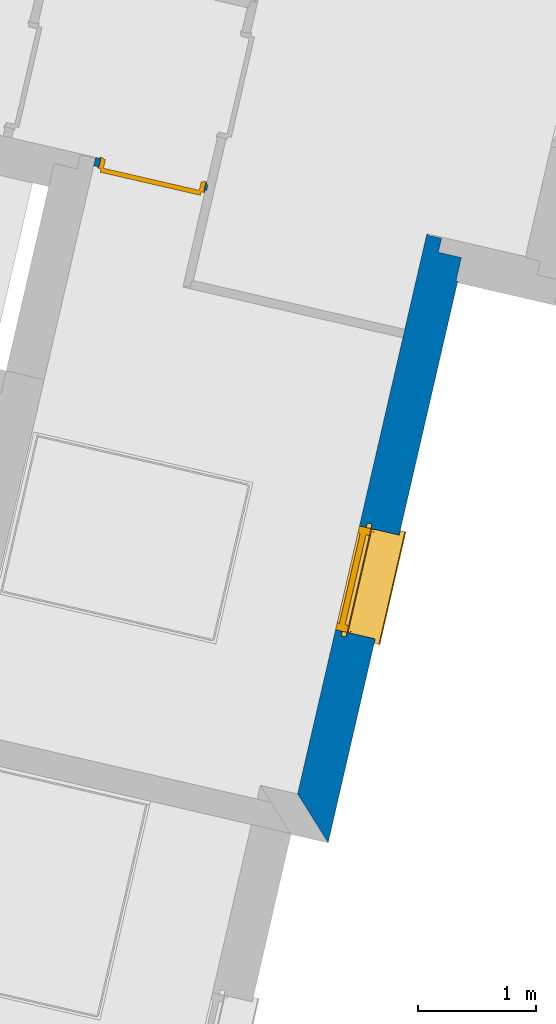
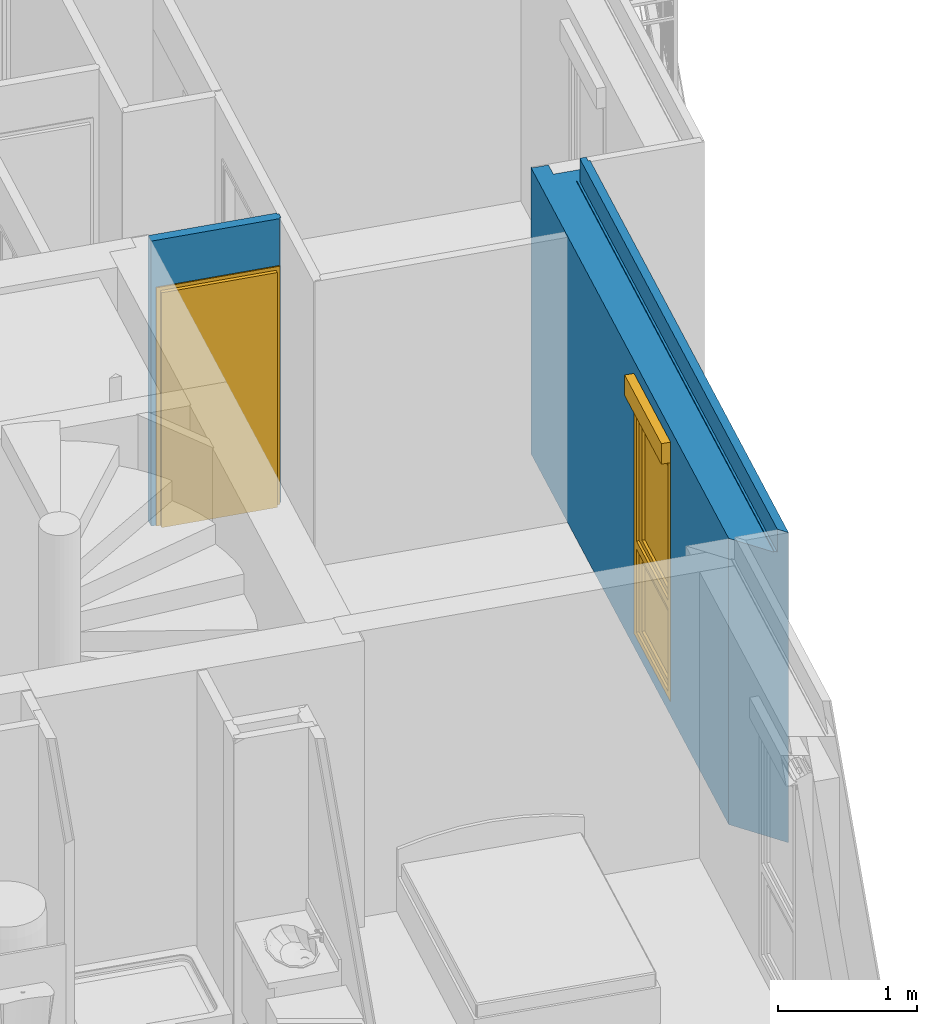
# One storey, part 21 of 91: 2 walls, 1 door, 1 window, 2 openings.
"""IFC2X3 building model written with IfcOpenShell, lengths in metres."""

import ifcopenshell
import ifcopenshell.guid

model = None  # the IFC model being written
_history = None  # IfcOwnerHistory: only IFC2X3 demands one
_inside = {}  # id of a spatial element -> (the spatial element, [elements in it])
_under = {}  # id of a project, library or spatial element -> (it, [spatial elements below it])
_declared = {}  # id of a project -> (the project, [libraries it declares])
_typed = {}  # id of a type object -> (the type object, [elements of that type])
_made_of = {}  # id of a material, layer set ... -> (it, [elements and type objects made of it])


def new_model(schema):
    """Start an empty IFC model of exactly this schema.

    Asked for "IFC4X3", IfcOpenShell would pick the latest addendum, in which some entities
    have other attributes; the version numbers below select the first issue.
    IFC2X3 requires an IfcOwnerHistory on every rooted entity: one is made here for all.
    """
    global model, _history
    if schema == "IFC4X3":
        model = ifcopenshell.file(schema_version=(4, 3, 0, 0))
    else:
        model = ifcopenshell.file(schema=schema)
    _inside.clear()
    _under.clear()
    _declared.clear()
    _typed.clear()
    _made_of.clear()
    _history = None
    if model.schema == "IFC2X3":
        org = make("IfcOrganization", Name="unknown")
        user = make(
            "IfcPersonAndOrganization",
            ThePerson=make("IfcPerson", FamilyName="unknown"),
            TheOrganization=org,
        )
        app = make(
            "IfcApplication",
            ApplicationDeveloper=org,
            Version="unknown",
            ApplicationFullName="unknown",
            ApplicationIdentifier="unknown",
        )
        _history = make(
            "IfcOwnerHistory",
            OwningUser=user,
            OwningApplication=app,
            ChangeAction="ADDED",
            CreationDate=0,
        )
    return model


def make(cls, **values):
    """One entity of the class cls with the attributes given. An attribute that is None is left unset."""
    return model.create_entity(
        cls, **{name: value for name, value in values.items() if value is not None}
    )


def entity(cls, *values):
    """Any entity or typed value of the class cls, its attributes in the order of the schema. None: left unset."""
    e = model.create_entity(cls)
    for i, value in enumerate(values):
        if value is not None:
            e[i] = value
    return e


def rooted(cls, **values):
    """An entity with a GlobalId (a new one), such as an element, a storey or a relation."""
    return make(cls, GlobalId=ifcopenshell.guid.new(), OwnerHistory=_history, **values)


def si_unit(unit_type, name, prefix=None):
    """IfcSIUnit, for example si_unit("LENGTHUNIT", "METRE", prefix="MILLI")."""
    return make("IfcSIUnit", UnitType=unit_type, Prefix=prefix, Name=name)


def converted_unit(unit_type, name, factor, base, dimensions=None, offset=None):
    """IfcConversionBasedUnit, such as the inch: factor (a typed value) times the base unit."""
    return make(
        "IfcConversionBasedUnit"
        if offset is None
        else "IfcConversionBasedUnitWithOffset",
        ConversionOffset=offset,
        Dimensions=None
        if dimensions is None
        else entity("IfcDimensionalExponents", *dimensions),
        UnitType=unit_type,
        Name=name,
        ConversionFactor=make(
            "IfcMeasureWithUnit", ValueComponent=factor, UnitComponent=base
        ),
    )


def derived_unit(unit_type, elements):
    """IfcDerivedUnit: a product of units, each with its exponent."""
    return make(
        "IfcDerivedUnit",
        Elements=[
            make("IfcDerivedUnitElement", Unit=unit, Exponent=power)
            for unit, power in elements
        ],
        UnitType=unit_type,
    )


def money_unit(currency):
    """IfcMonetaryUnit."""
    return make("IfcMonetaryUnit", Currency=currency)


def assignment(units):
    """IfcUnitAssignment: the units of a project."""
    return None if units is None else make("IfcUnitAssignment", Units=units)


def point(xyz):
    """IfcCartesianPoint."""
    return None if xyz is None else make("IfcCartesianPoint", Coordinates=xyz)


def direction(xyz):
    """IfcDirection."""
    return None if xyz is None else make("IfcDirection", DirectionRatios=xyz)


def frame(location, z_axis=None, x_axis=None):
    """IfcAxis2Placement3D, a coordinate frame: its origin and axes. An axis left out is left unset."""
    return make(
        "IfcAxis2Placement3D",
        Location=point(location),
        Axis=direction(z_axis),
        RefDirection=direction(x_axis),
    )


def origin_with_axes():
    """The frame at (0, 0, 0) with the z axis (0, 0, 1) and the x axis (1, 0, 0) written out."""
    return frame((0.0, 0.0, 0.0), z_axis=(0.0, 0.0, 1.0), x_axis=(1.0, 0.0, 0.0))


def place(relative_to, where):
    """IfcLocalPlacement: puts the frame where relative to a parent placement (None: the world)."""
    return make(
        "IfcLocalPlacement", PlacementRelTo=relative_to, RelativePlacement=where
    )


def context(
    kind, dimensions, precision=None, world=None, true_north=None, identifier=None
):
    """IfcGeometricRepresentationContext, for example the 3D "Model" context."""
    return make(
        "IfcGeometricRepresentationContext",
        ContextIdentifier=identifier,
        ContextType=kind,
        CoordinateSpaceDimension=dimensions,
        Precision=precision,
        WorldCoordinateSystem=world,
        TrueNorth=true_north,
    )


def subcontext(parent, identifier, kind, view, scale=None):
    """IfcGeometricRepresentationSubContext, for example "Body" below "Model"."""
    return make(
        "IfcGeometricRepresentationSubContext",
        ContextIdentifier=identifier,
        ContextType=kind,
        ParentContext=parent,
        TargetScale=scale,
        TargetView=view,
    )


def project(units=None, contexts=None):
    """IfcProject with its units and contexts."""
    return rooted(
        "IfcProject",
        Name="project",
        RepresentationContexts=contexts,
        UnitsInContext=assignment(units),
    )


def spatial(cls, under=None, at=None, **own):
    """A site, building, storey or space (cls), placed at a placement, below another one or the project."""
    s = rooted(cls, ObjectPlacement=at, **own)
    if under is not None:
        _under.setdefault(under.id(), (under, []))[1].append(s)
    return s


def faces_of(points, faces, orient=None, outer=None):
    """IfcFace entities. A face is a list of loops; a loop is a list of indices into points, from 0.

    orient and outer hold one flag for each loop. By default every Orientation is true, the
    first loop of a face is its IfcFaceOuterBound and the others are IfcFaceBound.
    """
    made = []
    for i, loops in enumerate(faces):
        bounds = []
        for j, loop in enumerate(loops):
            is_outer = j == 0 if outer is None else outer[i][j]
            bounds.append(
                make(
                    "IfcFaceOuterBound" if is_outer else "IfcFaceBound",
                    Bound=make("IfcPolyLoop", Polygon=[points[k] for k in loop]),
                    Orientation=True if orient is None else orient[i][j],
                )
            )
        made.append(make("IfcFace", Bounds=bounds))
    return made


def open_shell(faces, orient=None, outer=None):
    """The faces of one IfcOpenShell. surface_model builds it on its shared points."""
    return ("IfcOpenShell", faces, orient, outer)


def faceted_brep(points, faces, orient=None, outer=None, voids=None):
    """IfcFacetedBrep: a solid bounded by flat faces; with voids (closed shells), ...WithVoids."""
    shared = [point(p) for p in points]
    hull = make("IfcClosedShell", CfsFaces=faces_of(shared, faces, orient, outer))
    if voids is None:
        return make("IfcFacetedBrep", Outer=hull)
    return make(
        "IfcFacetedBrepWithVoids",
        Outer=hull,
        Voids=[
            make(cls, CfsFaces=faces_of(shared, fs, o, b)) for cls, fs, o, b in voids
        ],
    )


def surface_model(cls, points, shells):
    """IfcFaceBasedSurfaceModel or IfcShellBasedSurfaceModel (cls): surfaces that need not close."""
    shared = [point(p) for p in points]
    made = [make(c, CfsFaces=faces_of(shared, fs, o, b)) for c, fs, o, b in shells]
    if cls == "IfcFaceBasedSurfaceModel":
        return make(cls, FbsmFaces=made)
    return make(cls, SbsmBoundary=made)


def shape(context_of_items, identifier, shape_type, items):
    """IfcShapeRepresentation: the items that make up one representation, for example the "Body"."""
    return make(
        "IfcShapeRepresentation",
        ContextOfItems=context_of_items,
        RepresentationIdentifier=identifier,
        RepresentationType=shape_type,
        Items=items,
    )


def source(mapping_origin, context_of_items, identifier, shape_type, items):
    """IfcRepresentationMap: a shape defined once, which mapped items show again and again."""
    return make(
        "IfcRepresentationMap",
        MappingOrigin=mapping_origin,
        MappedRepresentation=shape(context_of_items, identifier, shape_type, items),
    )


def transform(
    local_origin,
    x_axis=None,
    y_axis=None,
    z_axis=None,
    scale=None,
    scale2=None,
    scale3=None,
    uniform=True,
):
    """IfcCartesianTransformationOperator3D, or its non-uniform kind. x_axis, y_axis, z_axis: its Axis1, 2, 3."""
    if uniform:
        return make(
            "IfcCartesianTransformationOperator3D",
            Axis1=direction(x_axis),
            Axis2=direction(y_axis),
            LocalOrigin=point(local_origin),
            Scale=scale,
            Axis3=direction(z_axis),
        )
    return make(
        "IfcCartesianTransformationOperator3DnonUniform",
        Axis1=direction(x_axis),
        Axis2=direction(y_axis),
        LocalOrigin=point(local_origin),
        Scale=scale,
        Axis3=direction(z_axis),
        Scale2=scale2,
        Scale3=scale3,
    )


def mapped(mapping_source, mapping_target):
    """IfcMappedItem: shows the shape of a source again, moved by a transform."""
    return make(
        "IfcMappedItem", MappingSource=mapping_source, MappingTarget=mapping_target
    )


def material(Name=None, Category=None):
    """IfcMaterial."""
    return make("IfcMaterial", Name=Name, Category=Category)


def material_list(materials):
    """IfcMaterialList."""
    return make("IfcMaterialList", Materials=materials)


def made_of(thing, what):
    """Note that an element or type object is made of a material, layer set ...; save() writes the relation."""
    if what is not None:
        _made_of.setdefault(what.id(), (what, []))[1].append(thing)
    return thing


def type_object(cls, material=None, **own):
    """A type object (cls), such as IfcWallType, which elements share."""
    return made_of(rooted(cls, **own), material)


def element(
    cls,
    number,
    at=None,
    inside=None,
    cuts=None,
    type_object=None,
    material=None,
    context=None,
    identifier="Body",
    shape_type=None,
    held_by="IfcProductDefinitionShape",
    body=None,
    shapes=None,
    **own,
):
    """One element of the class cls, such as IfcWall. Its Tag is "e" and its number.

    at: its placement. inside: the storey or other place that contains it. cuts: it is an
    opening in that element (IfcRelVoidsElement). A single representation is given by context,
    identifier, shape_type and body (its items); several are given by shapes. held_by: the class
    of the entity that holds the representations. save() writes the other relations.
    """
    e = rooted(cls, Tag="e%d" % number, ObjectPlacement=at, **own)
    if body is not None:
        shapes = [shape(context, identifier, shape_type, body)]
    if shapes is not None:
        e.Representation = make(held_by, Representations=shapes)
    if inside is not None:
        _inside.setdefault(inside.id(), (inside, []))[1].append(e)
    if cuts is not None:
        rooted(
            "IfcRelVoidsElement", RelatingBuildingElement=cuts, RelatedOpeningElement=e
        )
    if type_object is not None:
        _typed.setdefault(type_object.id(), (type_object, []))[1].append(e)
    return made_of(e, material)


def fill(opening, filler):
    """IfcRelFillsElement: the door or window that sits in an opening."""
    return rooted(
        "IfcRelFillsElement",
        RelatingOpeningElement=opening,
        RelatedBuildingElement=filler,
    )


def aggregate(whole, parts):
    """IfcRelAggregates: a whole, such as a stair, and the parts it consists of."""
    return rooted("IfcRelAggregates", RelatingObject=whole, RelatedObjects=parts)


def save(model, path):
    """Write the relations noted so far, then the file.

    IfcRelAggregates (storeys below a building ...), IfcRelContainedInSpatialStructure (elements
    in a storey), IfcRelDefinesByType, IfcRelAssociatesMaterial and IfcRelDeclares: one each for
    every whole, place, type object, material and project.
    """
    for whole, parts in _under.values():
        aggregate(whole, parts)
    for where, things in _inside.values():
        rooted(
            "IfcRelContainedInSpatialStructure",
            RelatedElements=things,
            RelatingStructure=where,
        )
    for kind, things in _typed.values():
        rooted("IfcRelDefinesByType", RelatedObjects=things, RelatingType=kind)
    for what, things in _made_of.values():
        rooted("IfcRelAssociatesMaterial", RelatedObjects=things, RelatingMaterial=what)
    for by, libraries in _declared.values():
        rooted("IfcRelDeclares", RelatingContext=by, RelatedDefinitions=libraries)
    model.write(path)


model = new_model("IFC2X3")

# Units and contexts
model_context = context("Model", 3, precision=1e-05, world=origin_with_axes(), true_north=direction((0.0, 1.0)))
body_context = subcontext(model_context, "Body", "Model", "MODEL_VIEW")
ifc_project = project(units=[si_unit("LENGTHUNIT", "METRE"), si_unit("AREAUNIT", "SQUARE_METRE"), si_unit("VOLUMEUNIT", "CUBIC_METRE"), converted_unit("PLANEANGLEUNIT", "DEGREE", entity("IfcPlaneAngleMeasure", 0.0174532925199), si_unit("PLANEANGLEUNIT", "RADIAN"), dimensions=[0, 0, 0, 0, 0, 0, 0]), si_unit("SOLIDANGLEUNIT", "STERADIAN"), money_unit("EUR"), converted_unit("TIMEUNIT", "Year", entity("IfcTimeMeasure", 31556926.0), si_unit("TIMEUNIT", "SECOND"), dimensions=[0, 0, 1, 0, 0, 0, 0]), si_unit("MASSUNIT", "GRAM", prefix="KILO"), si_unit("THERMODYNAMICTEMPERATUREUNIT", "DEGREE_CELSIUS"), si_unit("LUMINOUSINTENSITYUNIT", "LUMEN"), si_unit("ENERGYUNIT", "JOULE", prefix="MEGA"), derived_unit("THERMALCONDUCTANCEUNIT", [(si_unit("POWERUNIT", "WATT"), 1), (si_unit("LENGTHUNIT", "METRE"), -1), (si_unit("THERMODYNAMICTEMPERATUREUNIT", "KELVIN"), -1)]), derived_unit("SPECIFICHEATCAPACITYUNIT", [(si_unit("ENERGYUNIT", "JOULE"), 1), (si_unit("MASSUNIT", "GRAM", prefix="KILO"), -1), (si_unit("THERMODYNAMICTEMPERATUREUNIT", "KELVIN"), -1)]), derived_unit("MASSDENSITYUNIT", [(si_unit("MASSUNIT", "GRAM", prefix="KILO"), 1), (si_unit("VOLUMEUNIT", "CUBIC_METRE"), -1)])], contexts=[model_context])

# Site, building, storey
site_placement = place(None, origin_with_axes())
site = spatial("IfcSite", under=ifc_project, at=site_placement, Name="Site", CompositionType="ELEMENT")
building_placement = place(site_placement, origin_with_axes())
building = spatial("IfcBuilding", under=site, at=building_placement, Name="Bâtiment", CompositionType="ELEMENT")
storey_placement = place(building_placement, frame((0.0, 0.0, 5.44), z_axis=(0.0, 0.0, 1.0), x_axis=(1.0, 0.0, 0.0)))
storey = spatial("IfcBuildingStorey", under=building, at=storey_placement, Name="R+2", CompositionType="ELEMENT", Elevation=5.44)

# Wall, opening, window
ifc_material_1 = material(Name="Finition ext - Crépis")
ifc_material_2 = material(Name="Béton cellulaire")
ifc_material_3 = material(Name="Mortier")
ifc_material_4 = material(Name="Isolation - Polystyrène expansé")
ifc_material_5 = material(Name="Bloc ELITHERM")
ifc_material_6 = material(Name="Isolation - Polystyrène extrudé")
ifc_material_7 = material(Name="Finition int - Plaque de plâtre")
ifc_material_list_1 = material_list([ifc_material_1, ifc_material_2, ifc_material_3, ifc_material_4, ifc_material_5, ifc_material_6, ifc_material_7])
wall_type_1 = type_object("IfcWallType", Name="Mur ALKERN + planelle 21 345 x 2720", PredefinedType="USERDEFINED")
wall_1_placement = place(storey_placement, frame((-3.95852982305, -5.66773087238, 0.0), z_axis=(0.0, 0.0, 1.0), x_axis=(-0.224876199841, -0.97438734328, 0.0)))
wall_1 = element("IfcWall", 1, at=wall_1_placement, inside=storey, type_object=wall_type_1, material=ifc_material_list_1, Name="Mue bloc ALKERN isolé", ObjectType="SOLIDWALL", context=body_context, shape_type="Brep", body=[
    faceted_brep([(2.19006127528, -0.0149999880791, 0.12), (2.19006127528, -0.0149999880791, 0.06), (2.19006127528, -7.00355240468e-09, 0.06), (2.19006127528, 0.0, 0.12), (2.19006127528, 0.0, 2.22), (2.19006127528, -0.0149999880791, 2.22), (-0.0149999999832, -0.0149999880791, 0.0), (4.84467340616, -0.0149999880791, 0.0), (4.84467340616, -0.0149999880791, 2.72), (-0.0149999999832, -0.0149999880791, 2.72), (3.09006127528, -0.0149999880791, 2.22), (3.09006127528, -0.0149999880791, 0.12), (3.09006127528, -0.0149999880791, 0.06), (3.09006127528, -7.00355284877e-09, 0.06), (4.85967338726, -7.00355551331e-09, 0.0), (-0.015, -4.44056347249e-10, 0.0), (-0.015, 0.0, 2.72), (4.85967338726, -7.00355462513e-09, 2.72), (3.09006127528, 0.0, 0.12), (3.09006127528, 0.0, 2.22)], [[[0, 1, 2, 3, 4, 5]], [[6, 7, 8, 9], [1, 0, 5, 10, 11, 12]], [[13, 2, 1, 12]], [[14, 15, 16, 17], [13, 18, 19, 4, 3, 2]], [[19, 10, 5, 4]], [[15, 14, 7, 6]], [[14, 17, 8, 7]], [[9, 8, 17, 16]], [[16, 15, 6, 9]], [[18, 13, 12, 11, 10, 19]]]),
    faceted_brep([(-0.0630000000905, -0.015, 2.51999999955), (-0.0630000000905, -0.015, 2.72), (4.84467339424, -0.015, 2.72), (4.84467339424, -0.015, 2.5199999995), (-0.0630000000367, -0.0629999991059, 2.72), (-0.0630000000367, -0.0629999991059, 2.51999999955), (4.79667339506, -0.0629999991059, 2.72), (4.79667339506, -0.0629999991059, 2.51999999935)], [[[0, 1, 2, 3]], [[4, 1, 0, 5]], [[1, 4, 6, 2]], [[7, 3, 2, 6]], [[5, 0, 3, 7]], [[4, 5, 7, 6]]]),
    faceted_brep([(4.77667339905, -0.0829999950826, 2.51999998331), (4.84467339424, -0.015, 2.51999999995), (-0.0829999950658, -0.015, 2.51999998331), (-0.0829999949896, -0.083, 2.51999998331), (4.84467339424, -0.015, 2.51000000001), (4.77667339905, -0.0829999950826, 2.51000000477), (-0.0829999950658, -0.015, 2.51000000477), (-0.0829999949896, -0.083, 2.51000000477)], [[[0, 1, 2, 3]], [[4, 1, 0, 5]], [[1, 4, 6, 2]], [[2, 6, 7, 3]], [[5, 0, 3, 7]], [[4, 5, 7, 6]]]),
    faceted_brep([(-0.026061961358, -0.0630000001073, 2.5199999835), (-0.0260619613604, -0.0630000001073, 2.72), (4.79667339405, -0.0630000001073, 2.72), (4.79667339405, -0.0630000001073, 2.51999999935), (-0.0260619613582, -0.064903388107, 2.72), (-0.0260619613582, -0.064903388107, 2.51999998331), (4.79477000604, -0.0649033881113, 2.72), (4.79477000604, -0.0649033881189, 2.51999999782)], [[[0, 1, 2, 3]], [[4, 1, 0, 5]], [[4, 6, 2, 1]], [[6, 7, 3, 2]], [[5, 0, 3, 7]], [[6, 4, 5, 7]]]),
    faceted_brep([(2.19006127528, -0.214999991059, 0.12), (2.19006127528, -0.214999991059, 0.06), (2.19006127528, -0.015, 0.06), (2.19006127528, -0.015, 0.12), (2.19006127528, -0.015, 2.22), (2.19006127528, -0.214999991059, 2.22), (4.64467340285, -0.214999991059, 0.0), (4.64467340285, -0.214999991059, 2.51000000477), (-0.215000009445, -0.214999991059, 2.51), (-0.215000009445, -0.214999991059, 0.0), (3.09006127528, -0.214999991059, 2.22), (3.09006127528, -0.214999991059, 0.12), (3.09006127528, -0.214999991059, 0.06), (3.09006127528, -0.015, 0.06), (4.84467339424, -0.015, 2.5099999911), (4.84467339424, -0.015, 0.0), (-0.215000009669, -0.015, 0.0), (-0.215000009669, -0.015, 2.51), (3.09006127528, -0.015, 0.12), (3.09006127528, -0.015, 2.22), (4.77667339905, -0.0829999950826, 2.51000000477), (-0.215000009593, -0.0829999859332, 2.51)], [[[0, 1, 2, 3, 4, 5]], [[6, 7, 8, 9], [1, 0, 5, 10, 11, 12]], [[13, 2, 1, 12]], [[14, 15, 16, 17], [13, 18, 19, 4, 3, 2]], [[19, 10, 5, 4]], [[7, 6, 15, 14, 20]], [[7, 20, 21, 8]], [[8, 21, 17, 16, 9]], [[15, 6, 9, 16]], [[18, 13, 12, 11, 10, 19]], [[20, 14, 17, 21]]]),
    faceted_brep([(2.19006127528, -0.286, 0.12), (2.19006127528, -0.286, 0.06), (2.19006127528, -0.215000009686, 0.06), (2.19006127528, -0.215000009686, 0.12), (2.19006127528, -0.215, 2.22), (2.19006127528, -0.215, 2.4), (2.19006127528, -0.335000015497, 2.4), (2.19006127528, -0.335000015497, 2.22), (2.19006127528, -0.335000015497, 0.12), (3.09006127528, -0.286, 0.12), (3.09006127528, -0.286, 0.06), (3.09006127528, -0.215000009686, 0.06), (4.64467338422, -0.215000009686, 0.0), (-0.335000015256, -0.215000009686, 0.0), (-0.335000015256, -0.215000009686, 2.51), (4.64467338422, -0.215000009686, 2.51000000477), (3.09006127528, -0.215000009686, 0.12), (3.09006127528, -0.215, 2.22), (3.09006127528, -0.215, 2.4), (3.09006127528, -0.335000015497, 2.4), (4.52467337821, -0.335000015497, 2.51000000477), (-0.335000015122, -0.335000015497, 2.51), (-0.335000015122, -0.335000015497, 0.0), (4.52467337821, -0.335000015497, 0.0), (3.09006127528, -0.335000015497, 2.22), (3.09006127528, -0.335000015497, 0.12)], [[[0, 1, 2, 3, 4, 5, 6, 7, 8]], [[0, 9, 10, 1]], [[11, 2, 1, 10]], [[12, 13, 14, 15], [11, 16, 17, 18, 5, 4, 3, 2]], [[18, 19, 6, 5]], [[20, 21, 22, 23], [8, 7, 6, 19, 24, 25]], [[9, 0, 8, 25]], [[16, 11, 10, 9, 25, 24, 19, 18, 17]], [[23, 22, 13, 12]], [[22, 21, 14, 13]], [[15, 14, 21, 20]], [[20, 23, 12, 15]]]),
    faceted_brep([(4.52467337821, -0.335000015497, 0.0), (-0.344999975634, -0.335000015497, 0.0), (-0.344999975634, -0.335000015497, 2.51000000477), (4.52467337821, -0.335000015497, 2.51000000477), (3.09006127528, -0.335000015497, 2.22), (3.09006127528, -0.335000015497, 2.4), (2.19006127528, -0.335000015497, 2.4), (2.19006127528, -0.335000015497, 2.22), (2.19006127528, -0.335000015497, 0.12), (3.09006127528, -0.335000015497, 0.12), (4.51467341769, -0.344999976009, 0.0), (-0.344999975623, -0.34499998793, 0.0), (-0.344999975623, -0.34499998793, 2.51000000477), (4.51467341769, -0.344999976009, 2.51000000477), (3.09006127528, -0.34499998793, 2.22), (3.09006127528, -0.344999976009, 2.4), (2.19006127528, -0.344999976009, 2.4), (2.19006127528, -0.34499998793, 2.22), (2.19006127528, -0.34499998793, 0.12), (3.09006127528, -0.34499998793, 0.12)], [[[0, 1, 2, 3], [4, 5, 6, 7, 8, 9]], [[10, 11, 1, 0]], [[2, 1, 11, 12]], [[3, 2, 12, 13]], [[3, 13, 10, 0]], [[5, 4, 14, 15]], [[6, 5, 15, 16]], [[7, 6, 16, 17]], [[7, 17, 18, 8]], [[8, 18, 19, 9]], [[14, 4, 9, 19]], [[13, 12, 11, 10], [15, 14, 19, 18, 17, 16]]]),
])
opening_1_placement = place(wall_1_placement, frame((2.64006127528, 0.0, 0.12), z_axis=(0.0, 0.0, 1.0), x_axis=(1.0, 0.0, 0.0)))
opening_1 = element("IfcOpeningElement", 2, at=opening_1_placement, cuts=wall_1, Name="MEN 64", context=body_context, shape_type="Brep", body=[
    faceted_brep([(0.45, -0.245, 0.0), (0.45, -0.245, 2.1), (0.45, -0.83499998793, 2.1), (0.45, -0.83499998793, 0.0), (-0.45, -0.245, 0.0), (-0.45, -0.245, 2.1), (-0.45, -0.83499998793, 2.1), (-0.45, -0.83499998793, 0.0)], [[[0, 1, 2, 3]], [[0, 4, 5, 1]], [[1, 5, 6, 2]], [[3, 2, 6, 7]], [[4, 0, 3, 7]], [[5, 4, 7, 6]]]),
    faceted_brep([(0.45, -0.245, 0.0), (-0.45, -0.245, 0.0), (-0.45, 0.34499998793, 0.0), (0.45, 0.34499998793, 0.0), (0.45, -0.245, 2.1), (-0.45, -0.245, 2.1), (-0.45, 0.34499998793, 2.1), (0.45, 0.34499998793, 2.1)], [[[0, 1, 2, 3]], [[0, 4, 5, 1]], [[1, 5, 6, 2]], [[3, 2, 6, 7]], [[4, 0, 3, 7]], [[5, 4, 7, 6]]]),
    faceted_brep([(0.45, -0.245, 0.0), (-0.45, -0.245, 0.0), (-0.45, 0.34499998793, 0.0), (0.45, 0.34499998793, 0.0), (0.45, -0.245, 2.1), (-0.45, -0.245, 2.1), (-0.45, 0.34499998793, 2.1), (0.45, 0.34499998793, 2.1)], [[[0, 1, 2, 3]], [[0, 4, 5, 1]], [[1, 5, 6, 2]], [[3, 2, 6, 7]], [[4, 0, 3, 7]], [[5, 4, 7, 6]]]),
    faceted_brep([(0.45, -0.215, 2.1), (0.45, -0.215, 2.28), (0.45, -0.80499998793, 2.28), (0.45, -0.80499998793, 2.1), (-0.45, -0.215, 2.1), (-0.45, -0.215, 2.28), (-0.45, -0.80499998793, 2.28), (-0.45, -0.80499998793, 2.1)], [[[0, 1, 2, 3]], [[0, 4, 5, 1]], [[1, 5, 6, 2]], [[3, 2, 6, 7]], [[4, 0, 3, 7]], [[5, 4, 7, 6]]]),
    faceted_brep([(0.45, -0.286, 0.0), (0.45, -0.286, -0.06), (0.45, 0.30399998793, -0.06), (0.45, 0.30399998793, 0.0), (-0.45, -0.286, 0.0), (-0.45, -0.286, -0.06), (-0.45, 0.30399998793, -0.06), (-0.45, 0.30399998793, 0.0)], [[[0, 1, 2, 3]], [[0, 4, 5, 1]], [[1, 5, 6, 2]], [[3, 2, 6, 7]], [[4, 0, 3, 7]], [[5, 4, 7, 6]]]),
])
window_style = type_object("IfcWindowStyle", Name="Baie générique 2017 v2", ConstructionType="NOTDEFINED", OperationType="NOTDEFINED", ParameterTakesPrecedence=False, Sizeable=False)
shared_shape_1 = source(origin_with_axes(), body_context, "Body", "SurfaceModel", [
    faceted_brep([(0.45, 0.0, 2.1), (0.45, 0.0, 0.0), (-0.45, 0.0, 0.0), (-0.45, 0.0, 2.1), (-0.39, 0.0, 0.85), (0.39, 0.0, 0.85), (0.39, 0.0, 2.05), (-0.39, 0.0, 2.05), (-0.39, 0.0, 0.78), (-0.39, 0.0, 0.05), (0.39, 0.0, 0.05), (0.39, 0.0, 0.78), (0.45, -0.1, 2.1), (0.45, -0.1, 0.0), (-0.45, -0.1, 0.0), (-0.45, -0.1, 2.1), (-0.39, -0.1, 0.85), (0.39, -0.1, 0.85), (0.39, -0.1, 2.05), (-0.39, -0.1, 2.05), (-0.39, -0.1, 0.78), (-0.39, -0.1, 0.05), (0.39, -0.1, 0.05), (0.39, -0.1, 0.78)], [[[0, 1, 2, 3], [4, 5, 6, 7], [8, 9, 10, 11]], [[0, 12, 13, 1]], [[1, 13, 14, 2]], [[2, 14, 15, 3]], [[3, 15, 12, 0]], [[4, 16, 17, 5]], [[5, 17, 18, 6]], [[6, 18, 19, 7]], [[16, 4, 7, 19]], [[8, 20, 21, 9]], [[9, 21, 22, 10]], [[23, 11, 10, 22]], [[20, 8, 11, 23]], [[14, 13, 12, 15], [16, 19, 18, 17], [20, 23, 22, 21]]]),
    faceted_brep([(-0.39, -0.08, 2.05), (-0.39, -0.08, 0.85), (0.39, -0.08, 0.85), (0.39, -0.08, 2.05), (-0.32, -0.08, 1.98), (0.32, -0.08, 1.98), (0.32, -0.08, 0.9), (-0.32, -0.08, 0.9), (-0.39, -0.03, 2.05), (-0.39, -0.03, 0.85), (0.39, -0.03, 0.85), (0.39, -0.03, 2.05), (-0.32, -0.03, 1.98), (0.32, -0.03, 1.98), (0.32, -0.03, 0.9), (-0.32, -0.03, 0.9)], [[[0, 1, 2, 3], [4, 5, 6, 7]], [[1, 0, 8, 9]], [[10, 2, 1, 9]], [[11, 3, 2, 10]], [[0, 3, 11, 8]], [[5, 4, 12, 13]], [[14, 6, 5, 13]], [[15, 7, 6, 14]], [[4, 7, 15, 12]], [[11, 10, 9, 8], [15, 14, 13, 12]]]),
    surface_model("IfcShellBasedSurfaceModel", [(0.39, -0.08, 0.85), (0.39, -0.055, 0.85), (0.39, -0.055, 2.05), (0.39, -0.08, 2.05)], [open_shell([[[0, 1, 2, 3]]])]),
    surface_model("IfcShellBasedSurfaceModel", [(-0.39, -0.08, 0.85), (-0.39, -0.055, 0.85), (-0.39, -0.055, 2.05), (-0.39, -0.08, 2.05)], [open_shell([[[0, 1, 2, 3]]])]),
    surface_model("IfcShellBasedSurfaceModel", [(0.39, -0.08, 0.85), (0.39, -0.055, 0.85), (-0.39, -0.055, 0.85), (-0.39, -0.08, 0.85)], [open_shell([[[0, 1, 2, 3]]])]),
    surface_model("IfcShellBasedSurfaceModel", [(0.39, -0.08, 2.05), (0.39, -0.055, 2.05), (-0.39, -0.055, 2.05), (-0.39, -0.08, 2.05)], [open_shell([[[0, 1, 2, 3]]])]),
    surface_model("IfcShellBasedSurfaceModel", [(0.39, -0.055, 0.85), (0.39, -0.03, 0.85), (0.39, -0.03, 2.05), (0.39, -0.055, 2.05)], [open_shell([[[0, 1, 2, 3]]])]),
    surface_model("IfcShellBasedSurfaceModel", [(-0.39, -0.055, 0.85), (-0.39, -0.03, 0.85), (-0.39, -0.03, 2.05), (-0.39, -0.055, 2.05)], [open_shell([[[0, 1, 2, 3]]])]),
    surface_model("IfcShellBasedSurfaceModel", [(0.39, -0.055, 0.85), (0.39, -0.03, 0.85), (-0.39, -0.03, 0.85), (-0.39, -0.055, 0.85)], [open_shell([[[0, 1, 2, 3]]])]),
    surface_model("IfcShellBasedSurfaceModel", [(0.39, -0.055, 2.05), (0.39, -0.03, 2.05), (-0.39, -0.03, 2.05), (-0.39, -0.055, 2.05)], [open_shell([[[0, 1, 2, 3]]])]),
    faceted_brep([(0.32, -0.0575, 0.9), (-0.32, -0.0575, 0.9), (-0.32, -0.0525, 0.9), (0.32, -0.0525, 0.9), (0.32, -0.0575, 1.98), (-0.32, -0.0575, 1.98), (-0.32, -0.0525, 1.98), (0.32, -0.0525, 1.98)], [[[0, 1, 2, 3]], [[0, 4, 5, 1]], [[1, 5, 6, 2]], [[3, 2, 6, 7]], [[4, 0, 3, 7]], [[5, 4, 7, 6]]]),
    faceted_brep([(-0.39, -0.08, 0.78), (-0.39, -0.08, 0.05), (0.39, -0.08, 0.05), (0.39, -0.08, 0.78), (-0.32, -0.08, 0.71), (0.32, -0.08, 0.71), (0.32, -0.08, 0.1), (-0.32, -0.08, 0.1), (-0.39, -0.03, 0.78), (-0.39, -0.03, 0.05), (0.39, -0.03, 0.05), (0.39, -0.03, 0.78), (-0.32, -0.03, 0.71), (0.32, -0.03, 0.71), (0.32, -0.03, 0.1), (-0.32, -0.03, 0.1)], [[[0, 1, 2, 3], [4, 5, 6, 7]], [[1, 0, 8, 9]], [[10, 2, 1, 9]], [[11, 3, 2, 10]], [[0, 3, 11, 8]], [[5, 4, 12, 13]], [[14, 6, 5, 13]], [[15, 7, 6, 14]], [[4, 7, 15, 12]], [[11, 10, 9, 8], [15, 14, 13, 12]]]),
    surface_model("IfcShellBasedSurfaceModel", [(0.39, -0.08, 0.05), (0.39, -0.055, 0.05), (0.39, -0.055, 0.78), (0.39, -0.08, 0.78)], [open_shell([[[0, 1, 2, 3]]])]),
    surface_model("IfcShellBasedSurfaceModel", [(-0.39, -0.08, 0.05), (-0.39, -0.055, 0.05), (-0.39, -0.055, 0.78), (-0.39, -0.08, 0.78)], [open_shell([[[0, 1, 2, 3]]])]),
    surface_model("IfcShellBasedSurfaceModel", [(0.39, -0.08, 0.05), (0.39, -0.055, 0.05), (-0.39, -0.055, 0.05), (-0.39, -0.08, 0.05)], [open_shell([[[0, 1, 2, 3]]])]),
    surface_model("IfcShellBasedSurfaceModel", [(0.39, -0.08, 0.78), (0.39, -0.055, 0.78), (-0.39, -0.055, 0.78), (-0.39, -0.08, 0.78)], [open_shell([[[0, 1, 2, 3]]])]),
    surface_model("IfcShellBasedSurfaceModel", [(0.39, -0.055, 0.05), (0.39, -0.03, 0.05), (0.39, -0.03, 0.78), (0.39, -0.055, 0.78)], [open_shell([[[0, 1, 2, 3]]])]),
    surface_model("IfcShellBasedSurfaceModel", [(-0.39, -0.055, 0.05), (-0.39, -0.03, 0.05), (-0.39, -0.03, 0.78), (-0.39, -0.055, 0.78)], [open_shell([[[0, 1, 2, 3]]])]),
    surface_model("IfcShellBasedSurfaceModel", [(0.39, -0.055, 0.05), (0.39, -0.03, 0.05), (-0.39, -0.03, 0.05), (-0.39, -0.055, 0.05)], [open_shell([[[0, 1, 2, 3]]])]),
    surface_model("IfcShellBasedSurfaceModel", [(0.39, -0.055, 0.78), (0.39, -0.03, 0.78), (-0.39, -0.03, 0.78), (-0.39, -0.055, 0.78)], [open_shell([[[0, 1, 2, 3]]])]),
    faceted_brep([(0.32, -0.0575, 0.1), (-0.32, -0.0575, 0.1), (-0.32, -0.0525, 0.1), (0.32, -0.0525, 0.1), (0.32, -0.0575, 0.71), (-0.32, -0.0575, 0.71), (-0.32, -0.0525, 0.71), (0.32, -0.0525, 0.71)], [[[0, 1, 2, 3]], [[0, 4, 5, 1]], [[1, 5, 6, 2]], [[3, 2, 6, 7]], [[4, 0, 3, 7]], [[5, 4, 7, 6]]]),
    faceted_brep([(0.45, 0.03, 0.0), (0.425, 0.03, 0.0), (0.425, 0.03, 2.1), (0.45, 0.03, 2.1), (0.45, 0.002, 0.0), (0.425, 0.002, 0.0), (0.425, 0.004, 0.0), (0.448, 0.004, 0.0), (0.448, 0.028, 0.0), (0.425, 0.028, 0.0), (0.425, 0.028, 2.1), (0.448, 0.028, 2.1), (0.448, 0.004, 2.1), (0.425, 0.004, 2.1), (0.425, 0.002, 2.1), (0.45, 0.002, 2.1)], [[[0, 1, 2, 3]], [[0, 4, 5, 6, 7, 8, 9, 1]], [[1, 9, 10, 2]], [[3, 2, 10, 11, 12, 13, 14, 15]], [[4, 0, 3, 15]], [[5, 4, 15, 14]], [[6, 5, 14, 13]], [[7, 6, 13, 12]], [[8, 7, 12, 11]], [[9, 8, 11, 10]]]),
    faceted_brep([(-0.45, 0.03, 0.0), (-0.45, 0.03, 2.1), (-0.425, 0.03, 2.1), (-0.425, 0.03, 0.0), (-0.45, 0.002, 0.0), (-0.45, 0.002, 2.1), (-0.425, 0.002, 2.1), (-0.425, 0.004, 2.1), (-0.448, 0.004, 2.1), (-0.448, 0.028, 2.1), (-0.425, 0.028, 2.1), (-0.425, 0.028, 0.0), (-0.448, 0.028, 0.0), (-0.448, 0.004, 0.0), (-0.425, 0.004, 0.0), (-0.425, 0.002, 0.0)], [[[0, 1, 2, 3]], [[4, 5, 1, 0]], [[1, 5, 6, 7, 8, 9, 10, 2]], [[3, 2, 10, 11]], [[0, 3, 11, 12, 13, 14, 15, 4]], [[15, 6, 5, 4]], [[14, 7, 6, 15]], [[13, 8, 7, 14]], [[12, 9, 8, 13]], [[11, 10, 9, 12]]]),
    faceted_brep([(-0.448, 0.028, 2.1), (0.448, 0.028, 2.1), (0.448, 0.028, 2.278), (-0.448, 0.028, 2.278), (-0.448, 0.03, 2.1), (0.448, 0.03, 2.1), (0.448, 0.03, 2.28), (0.448, -0.17, 2.28), (0.448, -0.17, 2.1), (0.448, -0.168, 2.1), (0.448, -0.168, 2.278), (-0.448, -0.168, 2.278), (-0.448, -0.168, 2.1), (-0.448, -0.17, 2.1), (-0.448, -0.17, 2.28), (-0.448, 0.03, 2.28)], [[[0, 1, 2, 3]], [[4, 5, 1, 0]], [[1, 5, 6, 7, 8, 9, 10, 2]], [[3, 2, 10, 11]], [[0, 3, 11, 12, 13, 14, 15, 4]], [[15, 6, 5, 4]], [[14, 7, 6, 15]], [[13, 8, 7, 14]], [[12, 9, 8, 13]], [[11, 10, 9, 12]]]),
    faceted_brep([(-0.448, -0.0724697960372, 2.17436337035), (-0.448, -0.08, 2.19), (-0.448, -0.0724697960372, 2.20563662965), (-0.448, -0.0555495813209, 2.20949855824), (-0.448, -0.041980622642, 2.19867767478), (-0.448, -0.041980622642, 2.18132232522), (-0.448, -0.0555495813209, 2.17050144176), (0.448, -0.0724697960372, 2.17436337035), (0.448, -0.08, 2.19), (0.448, -0.0724697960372, 2.20563662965), (0.448, -0.0555495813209, 2.20949855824), (0.448, -0.041980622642, 2.19867767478), (0.448, -0.041980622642, 2.18132232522), (0.448, -0.0555495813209, 2.17050144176)], [[[0, 1, 2, 3, 4, 5, 6]], [[0, 7, 8, 1]], [[1, 8, 9, 2]], [[2, 9, 10, 3]], [[3, 10, 11, 4]], [[4, 11, 12, 5]], [[5, 12, 13, 6]], [[6, 13, 7, 0]], [[7, 13, 12, 11, 10, 9, 8]]]),
    faceted_brep([(-0.438, -0.130275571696, 2.15615706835), (-0.438, -0.138, 2.19), (-0.438, -0.130275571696, 2.22384293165), (-0.438, -0.108632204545, 2.25098285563), (-0.438, -0.0773566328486, 2.26604437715), (-0.438, -0.0426433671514, 2.26604437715), (-0.438, -0.011367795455, 2.25098285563), (-0.438, 0.0102755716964, 2.22384293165), (-0.438, 0.018, 2.19), (-0.438, 0.0102755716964, 2.15615706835), (-0.438, -0.011367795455, 2.12901714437), (-0.438, -0.0426433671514, 2.11395562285), (-0.438, -0.0773566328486, 2.11395562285), (-0.438, -0.108632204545, 2.12901714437), (0.438, -0.130275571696, 2.15615706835), (0.438, -0.138, 2.19), (0.438, -0.130275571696, 2.22384293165), (0.438, -0.108632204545, 2.25098285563), (0.438, -0.0773566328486, 2.26604437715), (0.438, -0.0426433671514, 2.26604437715), (0.438, -0.011367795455, 2.25098285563), (0.438, 0.0102755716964, 2.22384293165), (0.438, 0.018, 2.19), (0.438, 0.0102755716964, 2.15615706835), (0.438, -0.011367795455, 2.12901714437), (0.438, -0.0426433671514, 2.11395562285), (0.438, -0.0773566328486, 2.11395562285), (0.438, -0.108632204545, 2.12901714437)], [[[0, 1, 2, 3, 4, 5, 6, 7, 8, 9, 10, 11, 12, 13]], [[0, 14, 15, 1]], [[1, 15, 16, 2]], [[2, 16, 17, 3]], [[3, 17, 18, 4]], [[4, 18, 19, 5]], [[5, 19, 20, 6]], [[6, 20, 21, 7]], [[7, 21, 22, 8]], [[8, 22, 23, 9]], [[9, 23, 24, 10]], [[10, 24, 25, 11]], [[11, 25, 26, 12]], [[12, 26, 27, 13]], [[13, 27, 14, 0]], [[14, 27, 26, 25, 24, 23, 22, 21, 20, 19, 18, 17, 16, 15]]]),
    faceted_brep([(-0.45, -0.17, 2.1), (-0.448, -0.17, 2.1), (-0.448, -0.17, 2.28), (-0.45, -0.17, 2.28), (-0.45, 0.03, 2.1), (-0.448, 0.03, 2.1), (-0.448, 0.03, 2.28), (-0.45, 0.03, 2.28)], [[[0, 1, 2, 3]], [[4, 5, 1, 0]], [[1, 5, 6, 2]], [[3, 2, 6, 7]], [[0, 3, 7, 4]], [[7, 6, 5, 4]]]),
    faceted_brep([(0.448, -0.17, 2.1), (0.45, -0.17, 2.1), (0.45, -0.17, 2.28), (0.448, -0.17, 2.28), (0.448, 0.03, 2.1), (0.45, 0.03, 2.1), (0.45, 0.03, 2.28), (0.448, 0.03, 2.28)], [[[0, 1, 2, 3]], [[4, 5, 1, 0]], [[1, 5, 6, 2]], [[3, 2, 6, 7]], [[0, 3, 7, 4]], [[7, 6, 5, 4]]]),
    faceted_brep([(-0.448, 0.004, 2.1), (0.448, 0.004, 2.1), (0.448, -0.168, 2.1), (-0.448, -0.168, 2.1), (-0.448, 0.004, 2.102), (0.448, 0.004, 2.102), (0.448, -0.168, 2.102), (-0.448, -0.168, 2.102)], [[[0, 1, 2, 3]], [[4, 5, 1, 0]], [[1, 5, 6, 2]], [[3, 2, 6, 7]], [[0, 3, 7, 4]], [[7, 6, 5, 4]]]),
    faceted_brep([(-0.438, 0.006, 2.19), (-0.438, 0.006, 2.1), (0.438, 0.006, 2.1), (0.438, 0.006, 2.19), (-0.438, 0.026, 2.19), (-0.438, 0.026, 2.1), (0.438, 0.026, 2.1), (0.438, 0.026, 2.19)], [[[0, 1, 2, 3]], [[1, 0, 4, 5]], [[1, 5, 6, 2]], [[3, 2, 6, 7]], [[0, 3, 7, 4]], [[5, 4, 7, 6]]]),
    faceted_brep([(-0.45, 0.00167949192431, -0.01), (-0.45, 0.0, -0.00373205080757), (-0.49, 0.0, -0.00373205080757), (-0.49, -0.001, 0.0), (0.49, -0.001, 0.0), (0.49, 0.0, -0.00373205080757), (0.45, 0.0, -0.00373205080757), (0.45, 0.00167949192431, -0.01), (-0.45, 0.009, -0.0173205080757), (-0.45, 0.019, -0.02), (-0.45, 0.245, -0.02), (-0.45, 0.245, -0.06), (-0.45, 0.0, -0.06), (-0.49, 0.0, -0.06), (-0.49, -0.041, -0.06), (-0.49, -0.041, 0.0), (0.49, -0.041, 0.0), (0.49, -0.041, -0.06), (0.49, 0.0, -0.06), (0.45, 0.0, -0.06), (0.45, 0.245, -0.02), (0.45, 0.019, -0.02), (0.45, 0.009, -0.0173205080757), (0.45, 0.245, -0.06), (0.49, 0.245, -0.02), (0.49, 0.285, -0.02), (-0.49, 0.285, -0.02), (-0.49, 0.245, -0.02), (-0.49, 0.245, -0.06), (-0.49, 0.275, -0.06), (0.49, 0.275, -0.06), (0.49, 0.245, -0.06), (0.49, 0.295, -0.03), (0.49, 0.292071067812, -0.0229289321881), (0.49, 0.275, -0.05), (0.49, 0.285, -0.05), (0.49, 0.285, -0.06), (0.49, 0.295, -0.06), (-0.49, 0.292071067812, -0.0229289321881), (-0.49, 0.295, -0.03), (-0.49, 0.295, -0.06), (-0.49, 0.285, -0.06), (-0.49, 0.285, -0.05), (-0.49, 0.275, -0.05)], [[[0, 1, 2, 3, 4, 5, 6, 7]], [[1, 0, 8, 9, 10, 11, 12]], [[13, 2, 1, 12]], [[2, 13, 14, 15, 3]], [[16, 4, 3, 15]], [[4, 16, 17, 18, 5]], [[5, 18, 19, 6]], [[20, 21, 22, 7, 6, 19, 23]], [[8, 0, 7, 22]], [[9, 8, 22, 21]], [[10, 9, 21, 20, 24, 25, 26, 27]], [[10, 27, 28, 11]], [[11, 28, 29, 30, 31, 23, 19, 18, 17, 14, 13, 12]], [[17, 16, 15, 14]], [[20, 23, 31, 24]], [[32, 33, 25, 24, 31, 30, 34, 35, 36, 37]], [[25, 33, 38, 26]], [[28, 27, 26, 38, 39, 40, 41, 42, 43, 29]], [[34, 30, 29, 43]], [[33, 32, 39, 38]], [[35, 34, 43, 42]], [[36, 35, 42, 41]], [[37, 36, 41, 40]], [[32, 37, 40, 39]]]),
])
window_placement = place(opening_1_placement, frame((-0.45, 0.0, 0.0), z_axis=(0.0, 0.0, 1.0), x_axis=(1.0, 0.0, 0.0)))
window = element("IfcWindow", 3, at=window_placement, inside=storey, type_object=window_style, Name="MEN 64", ObjectType="WINDOW", OverallHeight=2.1, OverallWidth=0.9, context=body_context, shape_type="MappedRepresentation", body=[
    mapped(shared_shape_1, transform((0.45, -0.245, 0.0))),
])
fill(opening_1, window)

# Wall, opening, door
ifc_material_8 = material(Name="Isolation - Laine de roche")
ifc_material_list_2 = material_list([ifc_material_7, ifc_material_8, ifc_material_7])
wall_type_2 = type_object("IfcWallType", Name="3 - Cloison 72mm Placostil 74", PredefinedType="USERDEFINED")
wall_2_placement = place(storey_placement, frame((-7.018067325, -4.6075599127, 0.0), z_axis=(0.0, 0.0, 1.0), x_axis=(0.974387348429, -0.224876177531, 0.0)))
wall_2 = element("IfcWall", 4, at=wall_2_placement, inside=storey, type_object=wall_type_2, material=ifc_material_list_2, Name="Cloison Placostil 72/48", ObjectType="PARTITIONING", context=body_context, shape_type="Brep", body=[
    faceted_brep([(0.0463921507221, 0.0, 2.08), (0.0463921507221, 0.0, 0.0), (0.0, 0.0, 0.0), (0.0, 0.0, 2.5), (0.966221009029, 0.0, 2.5), (0.966221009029, 0.0, 0.0), (0.956392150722, 0.0, 0.0), (0.956392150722, 0.0, 2.08), (0.0463921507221, -0.013, 2.08), (0.0463921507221, -0.013, 0.0), (0.0, -0.013, 0.0), (0.0, -0.013, 2.5), (0.966221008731, -0.013, 2.5), (0.966221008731, -0.013, 0.0), (0.956392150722, -0.013, 0.0), (0.956392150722, -0.013, 2.08)], [[[0, 1, 2, 3, 4, 5, 6, 7]], [[1, 0, 8, 9]], [[1, 9, 10, 2]], [[11, 3, 2, 10]], [[4, 3, 11, 12]], [[12, 13, 5, 4]], [[14, 6, 5, 13]], [[7, 6, 14, 15]], [[0, 7, 15, 8]], [[15, 14, 13, 12, 11, 10, 9, 8]]]),
    faceted_brep([(0.0463921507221, -0.013, 2.08), (0.0463921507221, -0.013, 0.0), (0.0, -0.013, 0.0), (0.0, -0.013, 2.5), (0.979221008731, -0.013, 2.5), (0.979221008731, -0.013, 0.0), (0.956392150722, -0.013, 0.0), (0.956392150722, -0.013, 2.08), (0.0463921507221, -0.061, 2.08), (0.0463921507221, -0.061, 0.0), (0.0, -0.061, 0.0), (0.0, -0.061, 2.5), (0.979221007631, -0.061, 2.5), (0.979221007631, -0.061, 0.0), (0.956392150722, -0.061, 0.0), (0.956392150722, -0.061, 2.08)], [[[0, 1, 2, 3, 4, 5, 6, 7]], [[1, 0, 8, 9]], [[1, 9, 10, 2]], [[11, 3, 2, 10]], [[4, 3, 11, 12]], [[12, 13, 5, 4]], [[14, 6, 5, 13]], [[7, 6, 14, 15]], [[0, 7, 15, 8]], [[15, 14, 13, 12, 11, 10, 9, 8]]]),
    faceted_brep([(0.0463921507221, -0.061, 2.08), (0.0463921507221, -0.061, 0.0), (0.0, -0.061, 0.0), (0.0, -0.061, 2.5), (0.966221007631, -0.061, 2.5), (0.966221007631, -0.061, 0.0), (0.956392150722, -0.061, 0.0), (0.956392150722, -0.061, 2.08), (0.0463921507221, -0.074, 2.08), (0.0463921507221, -0.074, 0.0), (0.0, -0.074, 0.0), (0.0, -0.074, 2.5), (0.966221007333, -0.074, 2.5), (0.966221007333, -0.074, 0.0), (0.956392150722, -0.074, 0.0), (0.956392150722, -0.074, 2.08)], [[[0, 1, 2, 3, 4, 5, 6, 7]], [[1, 0, 8, 9]], [[1, 9, 10, 2]], [[11, 3, 2, 10]], [[4, 3, 11, 12]], [[12, 13, 5, 4]], [[14, 6, 5, 13]], [[7, 6, 14, 15]], [[0, 7, 15, 8]], [[15, 14, 13, 12, 11, 10, 9, 8]]]),
])
opening_2_placement = place(wall_2_placement, frame((0.501392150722, 0.0, 0.0), z_axis=(0.0, 0.0, 1.0), x_axis=(1.0, 0.0, 0.0)))
opening_2 = element("IfcOpeningElement", 5, at=opening_2_placement, cuts=wall_2, Name="Porte 83x204 bois alvéolaire", context=body_context, shape_type="Brep", body=[
    faceted_brep([(-0.455, 0.074, 0.0), (0.455, 0.074, 0.0), (0.455, -0.074, 0.0), (-0.455, -0.074, 0.0), (-0.455, 0.074, 2.08), (0.455, 0.074, 2.08), (0.455, -0.074, 2.08), (-0.455, -0.074, 2.08)], [[[0, 1, 2, 3]], [[0, 4, 5, 1]], [[1, 5, 6, 2]], [[3, 2, 6, 7]], [[4, 0, 3, 7]], [[5, 4, 7, 6]]]),
])
door_style = type_object("IfcDoorStyle", Name="Porte int générique 2019", ConstructionType="NOTDEFINED", OperationType="SINGLE_SWING_RIGHT", ParameterTakesPrecedence=False, Sizeable=False)
shared_shape_2 = source(origin_with_axes(), body_context, "Body", "Brep", [
    faceted_brep([(0.455, -0.006, 0.0), (0.415, -0.006, 0.0), (0.415, -0.006, 2.04), (-0.415, -0.006, 2.04), (-0.415, -0.006, 0.0), (-0.455, -0.006, 0.0), (-0.455, -0.006, 2.08), (0.455, -0.006, 2.08), (0.455, -0.08, 0.0), (0.415, -0.08, 0.0), (0.415, -0.08, 2.04), (-0.415, -0.08, 2.04), (-0.415, -0.08, 0.0), (-0.455, -0.08, 0.0), (-0.455, -0.08, 2.08), (0.455, -0.08, 2.08)], [[[0, 1, 2, 3, 4, 5, 6, 7]], [[0, 8, 9, 1]], [[1, 9, 10, 2]], [[2, 10, 11, 3]], [[3, 11, 12, 4]], [[5, 4, 12, 13]], [[14, 6, 5, 13]], [[15, 7, 6, 14]], [[8, 0, 7, 15]], [[9, 8, 15, 14, 13, 12, 11, 10]]]),
    faceted_brep([(0.465, -0.006, 0.0), (0.465, 0.004, 0.0), (0.465, 0.004, 2.09), (0.465, -0.006, 2.09), (0.435, -0.006, 0.0), (0.435, 0.004, 0.0), (0.435, 0.004, 2.06), (-0.435, 0.004, 2.06), (-0.435, 0.004, 0.0), (-0.465, 0.004, 0.0), (-0.465, 0.004, 2.09), (-0.465, -0.006, 2.09), (-0.465, -0.006, 0.0), (-0.435, -0.006, 0.0), (-0.435, -0.006, 2.06), (0.435, -0.006, 2.06)], [[[0, 1, 2, 3]], [[0, 4, 5, 1]], [[1, 5, 6, 7, 8, 9, 10, 2]], [[3, 2, 10, 11]], [[4, 0, 3, 11, 12, 13, 14, 15]], [[5, 4, 15, 6]], [[6, 15, 14, 7]], [[7, 14, 13, 8]], [[12, 9, 8, 13]], [[11, 10, 9, 12]]]),
    faceted_brep([(0.465, -0.09, 0.0), (0.465, -0.08, 0.0), (0.465, -0.08, 2.09), (0.465, -0.09, 2.09), (0.435, -0.09, 0.0), (0.435, -0.08, 0.0), (0.435, -0.08, 2.06), (-0.435, -0.08, 2.06), (-0.435, -0.08, 0.0), (-0.465, -0.08, 0.0), (-0.465, -0.08, 2.09), (-0.465, -0.09, 2.09), (-0.465, -0.09, 0.0), (-0.435, -0.09, 0.0), (-0.435, -0.09, 2.06), (0.435, -0.09, 2.06)], [[[0, 1, 2, 3]], [[0, 4, 5, 1]], [[1, 5, 6, 7, 8, 9, 10, 2]], [[3, 2, 10, 11]], [[4, 0, 3, 11, 12, 13, 14, 15]], [[5, 4, 15, 6]], [[6, 15, 14, 7]], [[7, 14, 13, 8]], [[12, 9, 8, 13]], [[11, 10, 9, 12]]]),
    faceted_brep([(0.435, 0.034, 0.0), (0.435, -0.006, 0.0), (-0.435, -0.006, 0.0), (-0.435, 0.034, 0.0), (0.435, 0.034, 2.06), (0.435, -0.006, 2.06), (-0.435, -0.006, 2.06), (-0.435, 0.034, 2.06)], [[[0, 1, 2, 3]], [[4, 5, 1, 0]], [[1, 5, 6, 2]], [[3, 2, 6, 7]], [[0, 3, 7, 4]], [[7, 6, 5, 4]]]),
])
door_placement = place(opening_2_placement, frame((0.415, 0.0, 0.0), z_axis=(0.0, 0.0, 1.0), x_axis=(-1.0, 0.0, 0.0)))
door = element("IfcDoor", 6, at=door_placement, inside=storey, type_object=door_style, Name="Porte 83x204 bois alvéolaire", ObjectType="DOOR", OverallHeight=2.04, OverallWidth=0.83, context=body_context, shape_type="MappedRepresentation", body=[
    mapped(shared_shape_2, transform((0.415, 0.08, 0.0))),
])
fill(opening_2, door)

save(model, "model.ifc")
